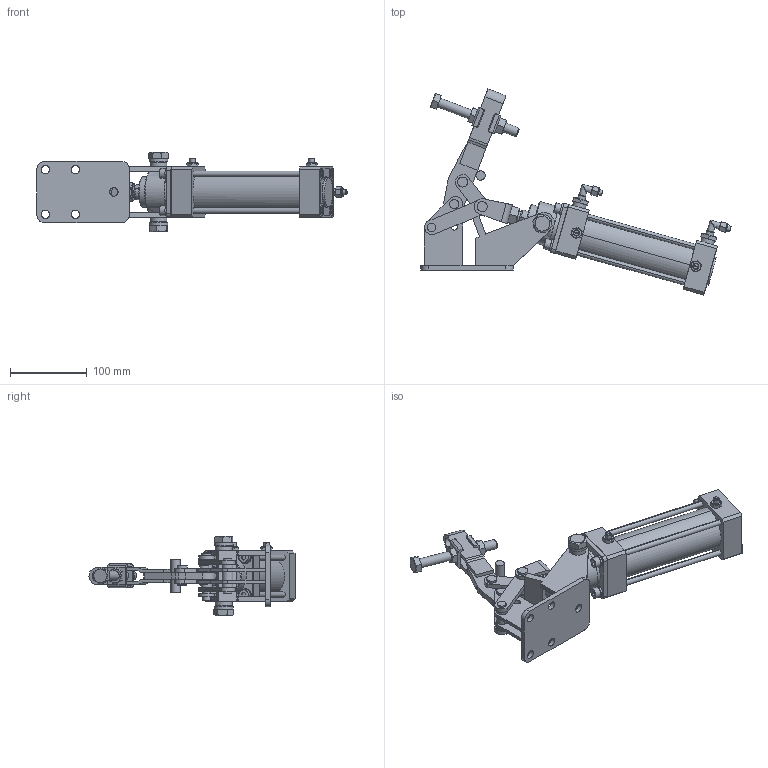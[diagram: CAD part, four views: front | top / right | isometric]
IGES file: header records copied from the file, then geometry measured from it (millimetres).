
Global section: file name: No.101V (ul); native system: Autodesk Inventor 2020; preprocessor: unknown; author: 高橋善宗,,11,0, ; organization: 20160323.072254; date: 20240416.161021; units: millimetre
Bounding box: 403.19 x 267.78 x 103.8 mm (x, y, z)
Volume: 832438.6 mm3; surface area: 317815.7 mm2
Topology: 45 solids, 45 shells, 927 faces, 2168 edges, 1418 vertices
Faces by surface type: bspline 927
